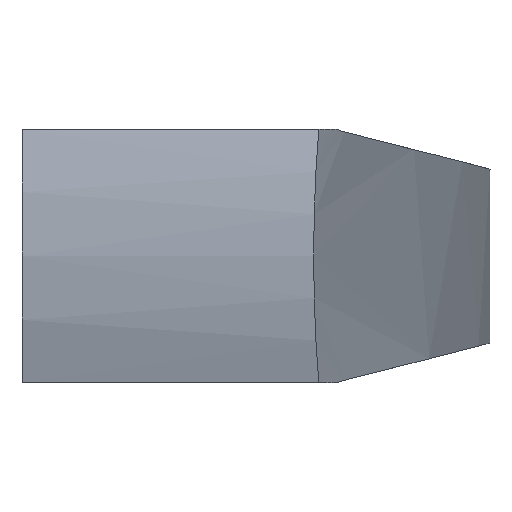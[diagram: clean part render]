
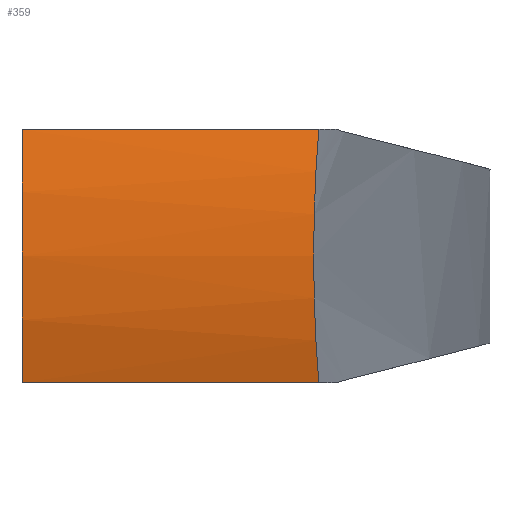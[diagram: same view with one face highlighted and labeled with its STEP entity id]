
A CAD part, left-side view. The second image highlights one B-rep face of the part: STEP entity #359.
In plain terms, the highlighted cylindrical face has radius 24.875 mm (diameter 49.75 mm), a partial arc.
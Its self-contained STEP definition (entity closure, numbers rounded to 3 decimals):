
#285 = VERTEX_POINT( '', #652 );
#303 = VERTEX_POINT( '', #671 );
#359 = ADVANCED_FACE( '', ( #730 ), #731, .T. );
#371 = VERTEX_POINT( '', #743 );
#397 = EDGE_CURVE( '', #371, #417, #769, .T. );
#399 = EDGE_CURVE( '', #501, #303, #771, .T. );
#417 = VERTEX_POINT( '', #791 );
#451 = EDGE_CURVE( '', #371, #285, #828, .T. );
#471 = EDGE_CURVE( '', #417, #303, #852, .T. );
#501 = VERTEX_POINT( '', #886 );
#509 = EDGE_CURVE( '', #285, #501, #894, .T. );
#652 = CARTESIAN_POINT( '', ( -11.524, -17.084, -7.285 ) );
#671 = CARTESIAN_POINT( '', ( -11.524, -17.084, 7.285 ) );
#730 = FACE_OUTER_BOUND( '', #1323, .T. );
#731 = CYLINDRICAL_SURFACE( '', #1324, 24.875 );
#743 = CARTESIAN_POINT( '', ( -11.524, 0., -7.285 ) );
#769 = CIRCLE( '', #1410, 24.875 );
#771 = B_SPLINE_CURVE_WITH_KNOTS( '', 3, ( #1413, #1414, #1415, #1416, #1417, #1418, #1419, #1420, #1421, #1422 ), .UNSPECIFIED., .F., .F., ( 4, 2, 2, 2, 4 ), ( 0., 2.343, 4.687, 7.03, 7.147 ), .UNSPECIFIED. );
#791 = CARTESIAN_POINT( '', ( -11.524, 0., 7.285 ) );
#828 = LINE( '', #1528, #1529 );
#852 = LINE( '', #1574, #1575 );
#886 = CARTESIAN_POINT( '', ( -12.615, -16.791, 0. ) );
#894 = B_SPLINE_CURVE_WITH_KNOTS( '', 3, ( #1644, #1645, #1646, #1647, #1648, #1649, #1650, #1651, #1652, #1653 ), .UNSPECIFIED., .F., .F., ( 4, 2, 2, 2, 4 ), ( -7.147, -7.03, -4.687, -2.343, 0. ), .UNSPECIFIED. );
#1323 = EDGE_LOOP( '', ( #1934, #1935, #1936, #1937, #1938 ) );
#1324 = AXIS2_PLACEMENT_3D( '', #1939, #1940, #1941 );
#1410 = AXIS2_PLACEMENT_3D( '', #1949, #1950, #1951 );
#1413 = CARTESIAN_POINT( '', ( -12.615, -16.791, 0. ) );
#1414 = CARTESIAN_POINT( '', ( -12.615, -16.791, 0.781 ) );
#1415 = CARTESIAN_POINT( '', ( -12.578, -16.801, 1.575 ) );
#1416 = CARTESIAN_POINT( '', ( -12.425, -16.842, 3.173 ) );
#1417 = CARTESIAN_POINT( '', ( -12.309, -16.874, 3.977 ) );
#1418 = CARTESIAN_POINT( '', ( -11.995, -16.958, 5.58 ) );
#1419 = CARTESIAN_POINT( '', ( -11.797, -17.011, 6.379 ) );
#1420 = CARTESIAN_POINT( '', ( -11.548, -17.077, 7.207 ) );
#1421 = CARTESIAN_POINT( '', ( -11.536, -17.081, 7.246 ) );
#1422 = CARTESIAN_POINT( '', ( -11.524, -17.084, 7.285 ) );
#1528 = CARTESIAN_POINT( '', ( -11.524, 0., -7.285 ) );
#1529 = VECTOR( '', #2009, 1. );
#1574 = CARTESIAN_POINT( '', ( -11.524, 0., 7.285 ) );
#1575 = VECTOR( '', #2044, 1. );
#1644 = CARTESIAN_POINT( '', ( -11.524, -17.084, -7.285 ) );
#1645 = CARTESIAN_POINT( '', ( -11.536, -17.081, -7.246 ) );
#1646 = CARTESIAN_POINT( '', ( -11.548, -17.077, -7.207 ) );
#1647 = CARTESIAN_POINT( '', ( -11.797, -17.011, -6.379 ) );
#1648 = CARTESIAN_POINT( '', ( -11.995, -16.958, -5.58 ) );
#1649 = CARTESIAN_POINT( '', ( -12.309, -16.874, -3.977 ) );
#1650 = CARTESIAN_POINT( '', ( -12.425, -16.842, -3.173 ) );
#1651 = CARTESIAN_POINT( '', ( -12.578, -16.801, -1.575 ) );
#1652 = CARTESIAN_POINT( '', ( -12.615, -16.791, -0.781 ) );
#1653 = CARTESIAN_POINT( '', ( -12.615, -16.791, 0. ) );
#1934 = ORIENTED_EDGE( '', *, *, #399, .T. );
#1935 = ORIENTED_EDGE( '', *, *, #471, .F. );
#1936 = ORIENTED_EDGE( '', *, *, #397, .F. );
#1937 = ORIENTED_EDGE( '', *, *, #451, .T. );
#1938 = ORIENTED_EDGE( '', *, *, #509, .T. );
#1939 = CARTESIAN_POINT( '', ( 12.26, 0., 0. ) );
#1940 = DIRECTION( '', ( 0., 1., 0. ) );
#1941 = DIRECTION( '', ( -0.956, 0., -0.293 ) );
#1949 = CARTESIAN_POINT( '', ( 12.26, 0., 0. ) );
#1950 = DIRECTION( '', ( 0., 1., 0. ) );
#1951 = DIRECTION( '', ( -0.956, 0., -0.293 ) );
#2009 = DIRECTION( '', ( 0., -1., 0. ) );
#2044 = DIRECTION( '', ( 0., -1., 0. ) );
